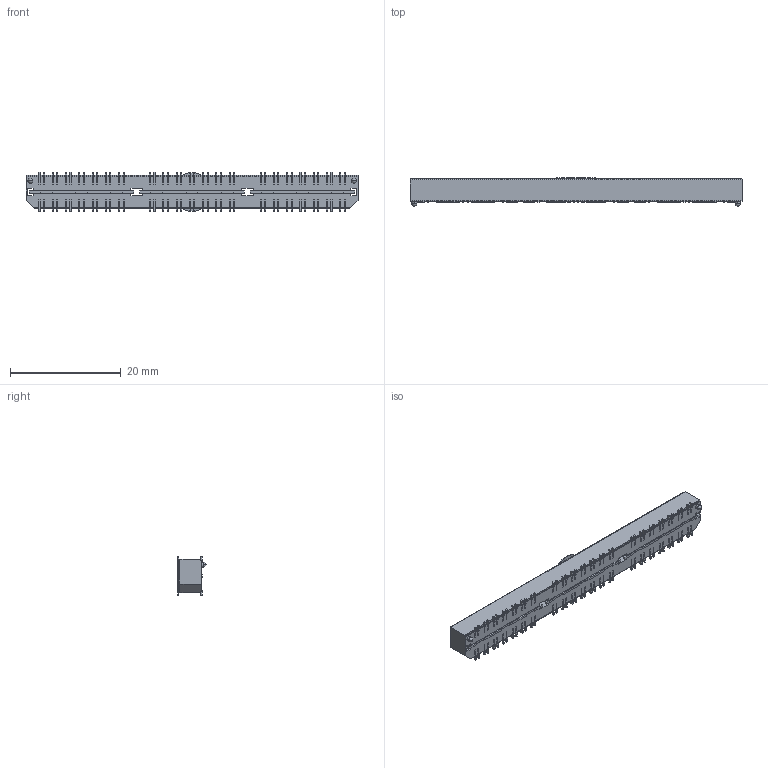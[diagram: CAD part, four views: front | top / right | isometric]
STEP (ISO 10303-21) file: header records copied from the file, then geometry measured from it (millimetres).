
FILE_DESCRIPTION (( 'STEP AP203' ), '1' );
FILE_NAME ('GT-B0806MSV01-84B0402.STEP', '2026-05-07T02:12:03', ( '' ), ( '' ), 'SwSTEP 2.0', 'SolidWorks 2020', '' );
FILE_SCHEMA (( 'CONFIG_CONTROL_DESIGN' ));
Length unit declared in the file: millimetre
Products named in the file (8): 05.stp; 01.stp; ASM0003_ASM.stp; 03.stp; GT-B0806MSV01-84B0402.stp; 02.stp; 04.stp; GT-B0806MSV01-84B0402
Assembly tree (13 placements, depth 4):
  GT-B0806MSV01-84B0402
    GT-B0806MSV01-84B0402.stp
      ASM0003_ASM.stp
        01.stp
        02.stp  x3
        03.stp  x3
        04.stp  x3
        05.stp
Bounding box: 60.02 x 5.11 x 7.11 mm (x, y, z)
Volume: 1007.9 mm3; surface area: 3743.7 mm2
Topology: 11 solids, 11 shells, 2414 faces, 7108 edges, 4734 vertices
Faces by surface type: plane 2159, cylinder 180, bspline 71, sphere 4
Entity records: 46358 total; most frequent: CARTESIAN_POINT 11849, ORIENTED_EDGE 7488, DIRECTION 6078, EDGE_CURVE 3744, LINE 3464, VECTOR 3464, VERTEX_POINT 2494, EDGE_LOOP 1312
